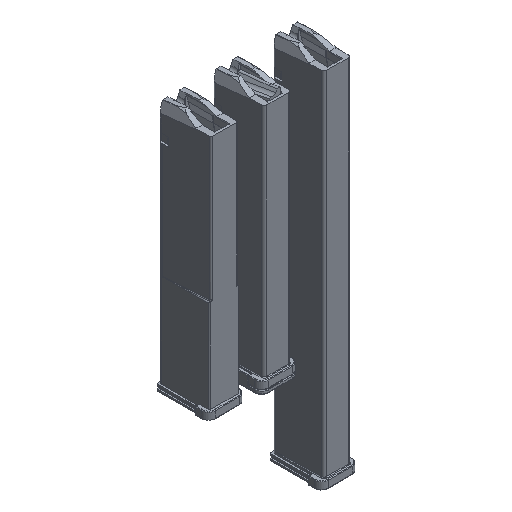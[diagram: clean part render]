
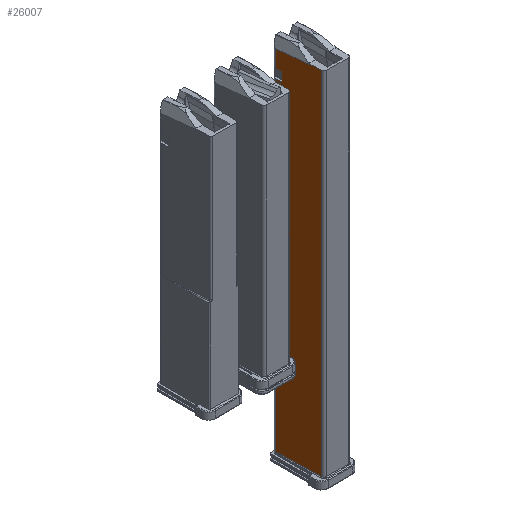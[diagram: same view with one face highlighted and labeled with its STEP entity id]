
A CAD part, isometric view. The second image highlights one B-rep face of the part: STEP entity #26007.
In plain terms, the highlighted planar face has unit normal (-0.999, -0.035, 0).
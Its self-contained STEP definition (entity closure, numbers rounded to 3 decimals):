
#2328=PLANE('',#27489);
#3694=FACE_OUTER_BOUND('',#5247,.T.);
#5247=EDGE_LOOP('',(#23703,#23704,#23705,#23706,#23707,#23708,#23709,#23710,
#23711));
#7771=LINE('',#47571,#10094);
#7774=LINE('',#47580,#10097);
#7777=LINE('',#47587,#10100);
#7859=LINE('',#47900,#10182);
#7874=LINE('',#47944,#10197);
#7979=LINE('',#48280,#10302);
#7980=LINE('',#48291,#10303);
#7981=LINE('',#48292,#10304);
#7982=LINE('',#48294,#10305);
#10094=VECTOR('',#31716,10.);
#10097=VECTOR('',#31723,10.);
#10100=VECTOR('',#31730,10.);
#10182=VECTOR('',#32018,10.);
#10197=VECTOR('',#32059,10.);
#10302=VECTOR('',#32384,10.);
#10303=VECTOR('',#32405,10.);
#10304=VECTOR('',#32406,10.);
#10305=VECTOR('',#32409,10.);
#12703=VERTEX_POINT('',#47569);
#12704=VERTEX_POINT('',#47570);
#12707=VERTEX_POINT('',#47578);
#12708=VERTEX_POINT('',#47579);
#12785=VERTEX_POINT('',#47897);
#12786=VERTEX_POINT('',#47899);
#12792=VERTEX_POINT('',#47943);
#12799=VERTEX_POINT('',#47981);
#12883=VERTEX_POINT('',#48278);
#16265=EDGE_CURVE('',#12703,#12704,#7771,.T.);
#16269=EDGE_CURVE('',#12707,#12708,#7774,.T.);
#16273=EDGE_CURVE('',#12704,#12707,#7777,.T.);
#16408=EDGE_CURVE('',#12785,#12786,#7859,.T.);
#16426=EDGE_CURVE('',#12792,#12785,#7874,.T.);
#16583=EDGE_CURVE('',#12883,#12799,#7979,.T.);
#16588=EDGE_CURVE('',#12708,#12799,#7980,.T.);
#16589=EDGE_CURVE('',#12703,#12792,#7981,.T.);
#16590=EDGE_CURVE('',#12883,#12786,#7982,.T.);
#23703=ORIENTED_EDGE('',*,*,#16588,.T.);
#23704=ORIENTED_EDGE('',*,*,#16583,.F.);
#23705=ORIENTED_EDGE('',*,*,#16590,.T.);
#23706=ORIENTED_EDGE('',*,*,#16408,.F.);
#23707=ORIENTED_EDGE('',*,*,#16426,.F.);
#23708=ORIENTED_EDGE('',*,*,#16589,.F.);
#23709=ORIENTED_EDGE('',*,*,#16265,.T.);
#23710=ORIENTED_EDGE('',*,*,#16273,.T.);
#23711=ORIENTED_EDGE('',*,*,#16269,.T.);
#26007=ADVANCED_FACE('',(#3694),#2328,.F.);
#27489=AXIS2_PLACEMENT_3D('',#48293,#32407,#32408);
#31716=DIRECTION('',(0.035,-0.999,0.));
#31723=DIRECTION('',(-0.035,0.999,0.));
#31730=DIRECTION('',(0.,0.,-1.));
#32018=DIRECTION('',(0.035,-0.999,0.));
#32059=DIRECTION('',(0.035,-0.997,0.075));
#32384=DIRECTION('',(-0.035,0.999,0.));
#32405=DIRECTION('',(0.,0.,-1.));
#32406=DIRECTION('',(0.,0.,1.));
#32407=DIRECTION('center_axis',(0.999,0.035,0.));
#32408=DIRECTION('ref_axis',(-0.035,0.999,0.));
#32409=DIRECTION('',(0.,0.,1.));
#47569=CARTESIAN_POINT('',(15.251,47.35,49.708));
#47570=CARTESIAN_POINT('',(15.418,42.58,49.708));
#47571=CARTESIAN_POINT('',(15.842,30.49,49.708));
#47578=CARTESIAN_POINT('',(15.418,42.58,43.108));
#47579=CARTESIAN_POINT('',(15.251,47.35,43.108));
#47580=CARTESIAN_POINT('',(15.925,28.105,43.108));
#47587=CARTESIAN_POINT('',(15.418,42.58,24.854));
#47897=CARTESIAN_POINT('',(16.242,19.055,64.654));
#47899=CARTESIAN_POINT('',(16.432,13.63,64.654));
#47900=CARTESIAN_POINT('',(16.411,14.239,64.654));
#47943=CARTESIAN_POINT('',(15.251,47.35,62.523));
#47944=CARTESIAN_POINT('',(16.389,14.859,64.97));
#47981=CARTESIAN_POINT('',(15.251,47.35,-200.018));
#48278=CARTESIAN_POINT('',(16.432,13.63,-200.018));
#48280=CARTESIAN_POINT('',(16.154,21.583,-200.018));
#48291=CARTESIAN_POINT('',(15.251,47.35,-112.673));
#48292=CARTESIAN_POINT('',(15.251,47.35,0.054));
#48293=CARTESIAN_POINT('Origin',(16.432,13.63,0.));
#48294=CARTESIAN_POINT('',(16.432,13.63,0.));
